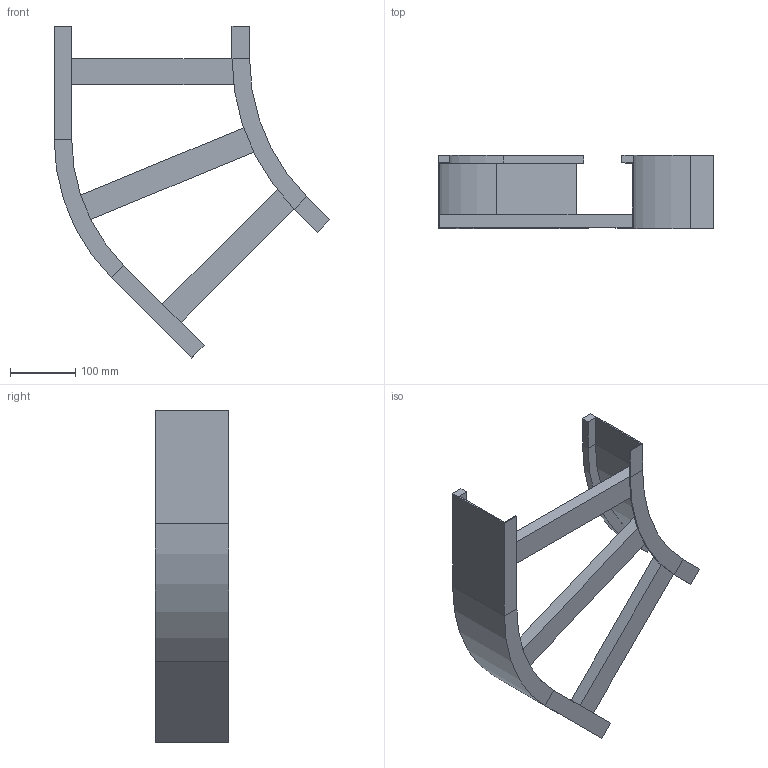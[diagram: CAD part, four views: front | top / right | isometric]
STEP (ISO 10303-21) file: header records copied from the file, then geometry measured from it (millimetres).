
FILE_DESCRIPTION (( 'STEP AP214' ), '1' );
FILE_NAME ('B2_11B3J300.step', '2025-02-21T15:14:49', ( '' ), ( '' ), 'SwSTEP 2.0', 'SolidWorks 2023', '' );
FILE_SCHEMA (( 'AUTOMOTIVE_DESIGN' ));
Length unit declared in the file: millimetre
Products named in the file (5): B2_LONGH.ESTERNO 45°_H112.5_R300+300; TRAVERSINO_L320; B2_LONGH.INTERNO 45°_H112.5_R300; TRAVERSINO_300; B2_11B3J300
Assembly tree (5 placements, depth 2):
  B2_11B3J300
    B2_LONGH.INTERNO 45°_H112.5_R300
    B2_LONGH.ESTERNO 45°_H112.5_R300+300
    TRAVERSINO_300  x2
    TRAVERSINO_L320
Bounding box: 423.22 x 112.5 x 509.62 mm (x, y, z)
Volume: 1168251.2 mm3; surface area: 403127.5 mm2
Topology: 5 solids, 5 shells, 70 faces, 148 edges, 88 vertices
Faces by surface type: plane 62, cylinder 8
Entity records: 1822 total; most frequent: DIRECTION 296, CARTESIAN_POINT 288, ORIENTED_EDGE 272, EDGE_CURVE 136, LINE 120, VECTOR 120, AXIS2_PLACEMENT_3D 88, VERTEX_POINT 80
